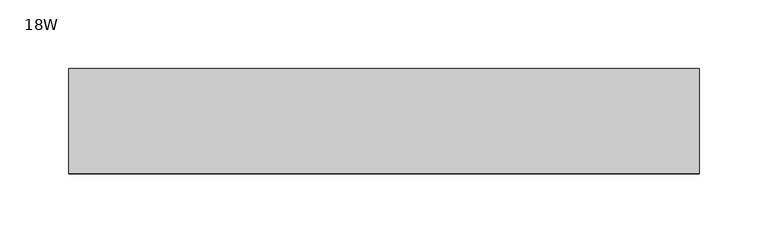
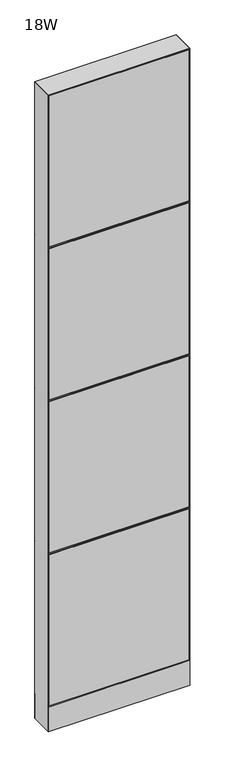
"""IFC4 building model written with IfcOpenShell, lengths in millimetres: furniture geometry, Steelcase - Montage - Frame - 86H - Enhanced Monolithic - Base Cavity : 18W."""

from ifc_helpers import new_model, si_unit, point, frame, frame_2d, origin, origin_with_axes, place, context, project, spatial, polyline, circle_curve, trimmed, segment, composite_curve, outline, extrude, faceted_brep, source, transform, mapped, element, save


def furniture_18w_ba931313(model_context):
    return source(origin(), model_context, "Body", "SolidModel", [
        faceted_brep([(450.8500047, 31.7526299, 1142.9999997), (450.8500047, 31.7526299, 1130.3000003), (457.2, 38.1026253, 1136.6499956), (-5.4e-06, 38.102627, 1136.6500027), (6.3499917, 31.7526299, 1142.9999997), (6.3499917, 31.7526299, 1130.3000003)], [[[0, 1, 2]], [[3, 4, 0, 2]], [[2, 1, 5, 3]], [[4, 5, 1, 0]], [[3, 5, 4]]]),
        faceted_brep([(6.3499917, 31.7526299, 619.1249997), (6.3499917, 31.7526299, 606.4250003), (450.8500047, 31.7526299, 606.4250003), (450.8500047, 31.7526299, 619.1249997), (-5.4e-06, 38.102627, 612.7750027), (457.2, 38.1026253, 612.7750044)], [[[0, 1, 2, 3]], [[4, 0, 3, 5]], [[5, 2, 1, 4]], [[4, 1, 0]], [[3, 2, 5]]]),
        faceted_brep([(-5.4e-06, 38.102627, 1660.5250027), (6.3499917, 31.7526299, 1666.8749997), (450.8500047, 31.7526299, 1666.8749997), (457.2, 38.1026253, 1660.5250044), (450.8500047, 31.7526299, 1654.1750003), (6.3499917, 31.7526299, 1654.1750003)], [[[0, 1, 2, 3]], [[2, 4, 3]], [[3, 4, 5, 0]], [[1, 5, 4, 2]], [[0, 5, 1]]]),
        extrude(outline(polyline([(3.175, 31.7500194), (3.175, 38.1000194), (454.025, 38.1000194), (454.025, 31.7500194), (3.175, 31.7500194)])), frame((0.0, 0.0, 1663.7), z_axis=(0.0, 0.0, 1.0), x_axis=(1.0, 0.0, 0.0)), (0.0, 0.0, 1.0), 517.525),
        extrude(outline(polyline([(3.175, 31.7500194), (3.175, 38.1000194), (454.025, 38.1000194), (454.025, 31.7500194), (3.175, 31.7500194)])), frame((0.0, 0.0, 92.075), z_axis=(0.0, 0.0, 1.0), x_axis=(1.0, 0.0, 0.0)), (0.0, 0.0, 1.0), 517.525),
        extrude(outline(polyline([(3.175, 31.7500194), (3.175, 38.1000194), (454.025, 38.1000194), (454.025, 31.7500194), (3.175, 31.7500194)])), frame((0.0, 0.0, 615.95), z_axis=(0.0, 0.0, 1.0), x_axis=(1.0, 0.0, 0.0)), (0.0, 0.0, 1.0), 517.525),
        extrude(outline(polyline([(3.175, 31.7500194), (3.175, 38.1000194), (454.025, 38.1000194), (454.025, 31.7500194), (3.175, 31.7500194)])), frame((0.0, 0.0, 1139.825), z_axis=(0.0, 0.0, 1.0), x_axis=(1.0, 0.0, 0.0)), (0.0, 0.0, 1.0), 517.525),
        faceted_brep([(450.8500047, -31.7526299, 1142.9999997), (457.2, -38.1026253, 1136.6500044), (450.8500047, -31.7526299, 1130.3000003), (0.0, -38.1026297, 1136.65), (6.3499917, -31.7526299, 1142.9999997), (6.3499917, -31.7526299, 1130.3000003)], [[[0, 1, 2]], [[3, 1, 0, 4]], [[1, 3, 5, 2]], [[4, 0, 2, 5]], [[3, 4, 5]]]),
        faceted_brep([(6.3499917, -31.7526299, 619.1249997), (450.8500047, -31.7526299, 619.1249997), (450.8500047, -31.7526299, 606.4250003), (6.3499917, -31.7526299, 606.4250003), (0.0, -38.1026297, 612.775), (457.2, -38.1026297, 612.775)], [[[0, 1, 2, 3]], [[4, 5, 1, 0]], [[5, 4, 3, 2]], [[4, 0, 3]], [[1, 5, 2]]]),
        faceted_brep([(0.0, -38.1026297, 1660.525), (457.2, -38.1026297, 1660.525), (450.8500047, -31.7526299, 1666.8749997), (6.3499917, -31.7526299, 1666.8749997), (450.8500047, -31.7526299, 1654.1750003), (6.3499917, -31.7526299, 1654.1750003)], [[[0, 1, 2, 3]], [[2, 1, 4]], [[1, 0, 5, 4]], [[3, 2, 4, 5]], [[0, 3, 5]]]),
        extrude(outline(polyline([(3.175, -31.7500194), (454.025, -31.7500194), (454.025, -38.1000194), (3.175, -38.1000194), (3.175, -31.7500194)])), frame((0.0, 0.0, 1663.7), z_axis=(0.0, 0.0, 1.0), x_axis=(1.0, 0.0, 0.0)), (0.0, 0.0, 1.0), 517.525),
        extrude(outline(polyline([(3.175, -31.7500194), (454.025, -31.7500194), (454.025, -38.1000194), (3.175, -38.1000194), (3.175, -31.7500194)])), frame((0.0, 0.0, 92.075), z_axis=(0.0, 0.0, 1.0), x_axis=(1.0, 0.0, 0.0)), (0.0, 0.0, 1.0), 517.525),
        extrude(outline(polyline([(3.175, -31.7500194), (454.025, -31.7500194), (454.025, -38.1000194), (3.175, -38.1000194), (3.175, -31.7500194)])), frame((0.0, 0.0, 615.95), z_axis=(0.0, 0.0, 1.0), x_axis=(1.0, 0.0, 0.0)), (0.0, 0.0, 1.0), 517.525),
        extrude(outline(polyline([(3.175, -31.7500194), (454.025, -31.7500194), (454.025, -38.1000194), (3.175, -38.1000194), (3.175, -31.7500194)])), frame((0.0, 0.0, 1139.825), z_axis=(0.0, 0.0, 1.0), x_axis=(1.0, 0.0, 0.0)), (0.0, 0.0, 1.0), 517.525),
        extrude(outline(polyline([(6.350003, -31.7499985), (450.849997, -31.7499985), (457.2, -38.1000015), (0.0, -38.1000015), (6.350003, -31.7499985)])), frame((0.0, 0.0, 4.064), z_axis=(0.0, 0.0, 1.0), x_axis=(1.0, 0.0, 0.0)), (0.0, 0.0, 1.0), 84.835997),
        extrude(outline(polyline([(6.3500002, 31.7500017), (0.0, 38.1000015), (457.2, 38.1000015), (450.8500002, 31.7500017), (6.3500002, 31.7500017)])), frame((0.0, 0.0, 4.064), z_axis=(0.0, 0.0, 1.0), x_axis=(1.0, 0.0, 0.0)), (0.0, 0.0, 1.0), 84.835997),
        faceted_brep([(457.2, -38.1000015, 2184.4), (0.0, -38.1000015, 2184.4), (6.3500484, -31.749953, 2178.0499516), (450.8499516, -31.749953, 2178.0499516), (6.3500484, 31.749953, 2178.0499516), (450.8499516, 31.749953, 2178.0499516), (0.0, 38.1000015, 2184.4), (457.2, 38.1000015, 2184.4)], [[[0, 1, 2, 3]], [[3, 2, 4, 5]], [[6, 7, 5, 4]], [[1, 0, 7, 6]], [[2, 1, 6, 4]], [[0, 3, 5, 7]]]),
        extrude(outline(composite_curve([segment(trimmed(circle_curve(frame_2d((44.45, 0.0)), 15.24), [point((29.21, 0.0))], [point((59.69, 0.0))], False, "CARTESIAN"), True, "CONTINUOUS"), segment(trimmed(circle_curve(frame_2d((44.45, 0.0)), 15.24), [point((59.69, 0.0))], [point((29.21, 0.0))], False, "CARTESIAN"), True, "CONTINUOUS")], self_intersect=False)), origin_with_axes(), (0.0, 0.0, 1.0), 4.064),
        extrude(outline(composite_curve([segment(trimmed(circle_curve(frame_2d((412.75, 0.0)), 15.24), [point((397.51, 0.0))], [point((427.99, 0.0))], False, "CARTESIAN"), True, "CONTINUOUS"), segment(trimmed(circle_curve(frame_2d((412.75, 0.0)), 15.24), [point((427.99, 0.0))], [point((397.51, 0.0))], False, "CARTESIAN"), True, "CONTINUOUS")], self_intersect=False)), origin_with_axes(), (0.0, 0.0, 1.0), 4.064),
        faceted_brep([(457.2, -38.1000106, 4.064), (457.2, 38.1000015, 4.064), (457.2, 38.1000015, 2184.4), (457.2, -38.1000106, 2184.3999637), (0.0, 38.1000015, 4.064), (0.0, -38.1000015, 4.064), (0.0, -38.1000015, 2184.4), (0.0, 38.1000015, 2184.4), (450.8499879, 31.7500017, 606.425), (6.35, 31.7500017, 606.425), (6.3499998, 31.7500017, 619.125), (450.8499879, 31.7500017, 619.125), (6.35, -31.7499985, 619.125), (450.8499879, -31.7499985, 619.125), (6.350003, -31.7499985, 606.425), (450.8499879, -31.7499985, 606.425), (450.8499879, 31.7500017, 1130.3), (6.35, 31.7500017, 1130.3), (6.3499998, 31.7500017, 1143.0), (450.8499879, 31.7500017, 1143.0), (6.35, -31.7499985, 1143.0), (450.8499879, -31.7499985, 1143.0), (6.350003, -31.7499985, 1130.3), (450.8499879, -31.7499985, 1130.3), (6.35, 31.7500015, 4.064), (6.35, -31.7500015, 4.064), (450.8499879, 31.7499894, 4.064), (450.8499879, -31.7499985, 4.064), (6.35, 31.7500015, 2178.05), (6.3499999, 31.7500016, 1666.875), (6.3499998, 31.7500017, 1654.175), (6.3500015, -31.75, 1654.175), (6.350003, -31.7499985, 1666.875), (6.35, -31.7500015, 2178.05), (450.8499879, 31.7500017, 1654.175), (450.8499879, -31.7499985, 1654.175), (450.8499879, 31.7500017, 1666.875), (450.8499879, -31.7499985, 1666.875), (450.8499879, -31.7499985, 2178.0499516), (450.8499879, 31.7499895, 2178.0499516)], [[[0, 1, 2, 3]], [[4, 5, 6, 7]], [[8, 9, 10, 11]], [[11, 10, 12, 13]], [[13, 12, 14, 15]], [[9, 8, 15, 14]], [[16, 17, 18, 19]], [[19, 18, 20, 21]], [[21, 20, 22, 23]], [[17, 16, 23, 22]], [[24, 25, 5, 4]], [[26, 1, 0, 27]], [[24, 4, 7, 28, 29, 30, 18, 17, 10, 9]], [[5, 25, 14, 12, 22, 20, 31, 32, 33, 6]], [[25, 24, 9, 14]], [[18, 30, 31, 20]], [[10, 17, 22, 12]], [[32, 29, 28, 33]], [[26, 27, 15, 8]], [[16, 11, 13, 23]], [[34, 19, 21, 35]], [[36, 37, 38, 39]], [[27, 0, 3, 38, 37, 35, 21, 23, 13, 15]], [[1, 26, 8, 11, 16, 19, 34, 36, 39, 2]], [[7, 6, 33, 28]], [[3, 2, 39, 38]], [[34, 30, 29, 36]], [[36, 29, 32, 37]], [[37, 32, 31, 35]], [[30, 34, 35, 31]]]),
    ])


if __name__ == "__main__":
    model = new_model("IFC4")
    model_context = context("Model", 3, world=origin())
    ifc_project = project(units=[si_unit("LENGTHUNIT", "METRE", prefix="MILLI")], contexts=[model_context])
    site = spatial("IfcSite", under=ifc_project)
    building = spatial("IfcBuilding", under=site)
    placement = place(None, origin())
    furniture_18w_shape = furniture_18w_ba931313(model_context)
    element("IfcFurniture", 1, ObjectType="Steelcase - Montage - Frame - 86H - Enhanced Monolithic - Base Cavity : 18W", at=placement, inside=building, context=model_context, shape_type="MappedRepresentation", body=[
        mapped(furniture_18w_shape, transform((0.0, 0.0, 0.0), x_axis=(1.0, 0.0, 0.0), y_axis=(0.0, 1.0, 0.0), z_axis=(0.0, 0.0, 1.0))),
    ])
    save(model, "model.ifc")
